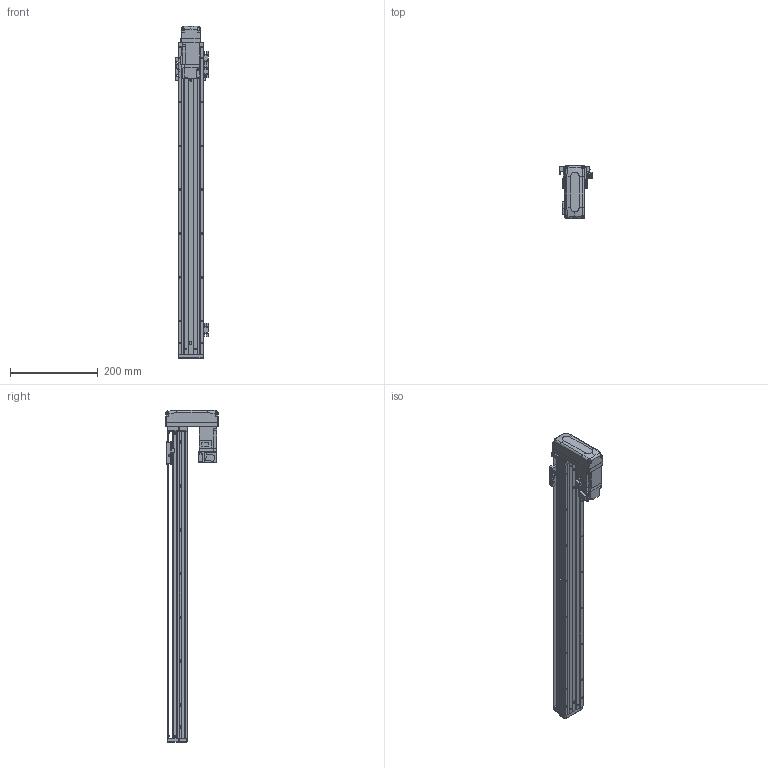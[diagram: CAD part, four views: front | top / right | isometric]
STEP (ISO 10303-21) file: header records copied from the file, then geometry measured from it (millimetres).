
FILE_DESCRIPTION (( 'STEP AP203' ), '1' );
FILE_NAME ('KTHA50-600-BM-M10-C4L.step', '2022-03-19T07:12:13', ( '微软用户' ), ( '微软中国' ), 'SwSTEP 2.0', 'SolidWorks 2020', '' );
FILE_SCHEMA (( 'CONFIG_CONTROL_DESIGN' ));
Length unit declared in the file: millimetre
Products named in the file (18): GBT 70.3-M3℅6; GBT77-2000 M3×3; HG-KR13（三菱）; KTHA50-001_700; GBT 70.1-M3℅6; CTHA50-015-2_CTHA60-015-2; KTHA50-002; CTHA60-017; CTHA60-033; KTHA50-004; GBT 70.1-M4×12; GBT 70.1-M3×15; KTHA50-005; CTHA60-016; KTHA50-600-BM-M10-C4L; GB¨uT 70.2-M3¡Á6_M3¡Á6; CTHA60-021; EE_SX911P_R
Assembly tree (53 placements, depth 2):
  KTHA50-600-BM-M10-C4L
    KTHA50-001_700
    KTHA50-002
    KTHA50-004
    KTHA50-005
    GB¨uT 70.2-M3¡Á6_M3¡Á6  x6
    EE_SX911P_R  x3
    GBT77-2000 M3×3  x6
    GBT 70.1-M3℅6  x6
    CTHA60-017  x3
    GBT 70.1-M4×12  x10
    CTHA60-016  x2
    CTHA60-021  x2
    GBT 70.3-M3℅6  x4
    HG-KR13（三菱）
    CTHA50-015-2_CTHA60-015-2
    CTHA60-033
    GBT 70.1-M3×15  x4
Bounding box: 75.22 x 120 x 757 mm (x, y, z)
Volume: 1501064.1 mm3; surface area: 367577.2 mm2
Topology: 56 solids, 56 shells, 2303 faces, 5463 edges, 3352 vertices
Faces by surface type: plane 1288, cylinder 562, cone 311, torus 100, bspline 26, sphere 16
Entity records: 39527 total; most frequent: CARTESIAN_POINT 7458, DIRECTION 6185, ORIENTED_EDGE 5938, EDGE_CURVE 2969, AXIS2_PLACEMENT_3D 2095, LINE 1995, VECTOR 1995, VERTEX_POINT 1866
